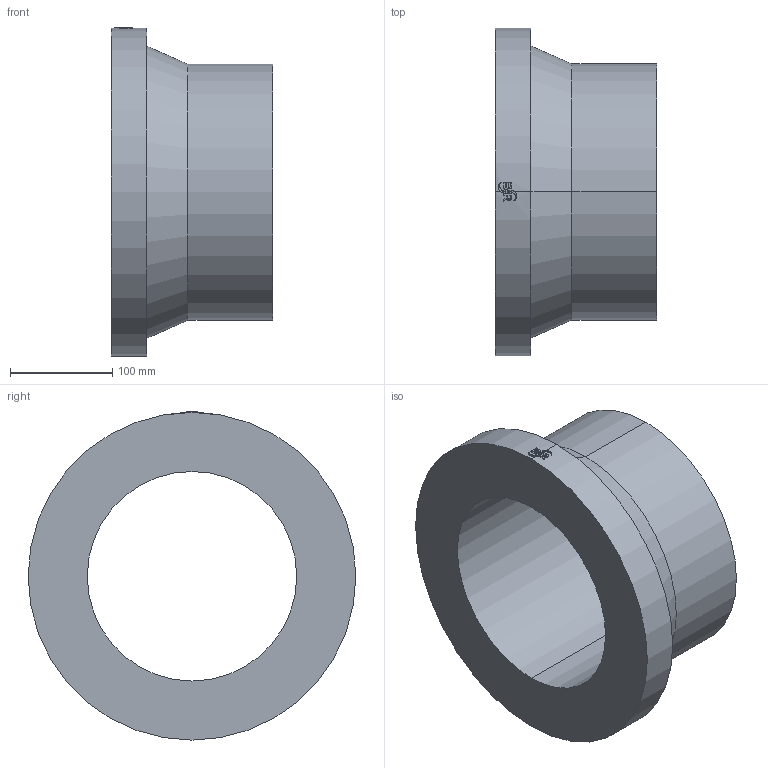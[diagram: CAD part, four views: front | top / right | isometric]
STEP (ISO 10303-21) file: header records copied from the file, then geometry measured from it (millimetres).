
FILE_DESCRIPTION (( 'STEP AP214' ), '1' );
FILE_NAME ('233521F015.STEP', '2018-07-20T10:48:39', ( '' ), ( '' ), 'SwSTEP 2.0', 'SolidWorks 2017', '' );
FILE_SCHEMA (( 'AUTOMOTIVE_DESIGN' ));
Length unit declared in the file: millimetre
Products named in the file (1): 233521F015
Bounding box: 158 x 320 x 320.5 mm (x, y, z)
Volume: 3945719 mm3; surface area: 319089.5 mm2
Topology: 1 solids, 1 shells, 60 faces, 154 edges, 102 vertices
Faces by surface type: cylinder 29, plane 29, cone 2
Entity records: 2924 total; most frequent: CARTESIAN_POINT 807, ORIENTED_EDGE 308, DIRECTION 282, EDGE_CURVE 154, AXIS2_PLACEMENT_3D 107, VERTEX_POINT 102, VECTOR 68, EDGE_LOOP 68
